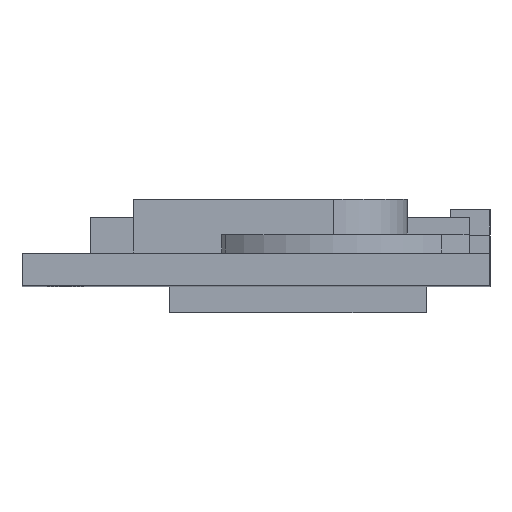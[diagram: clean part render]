
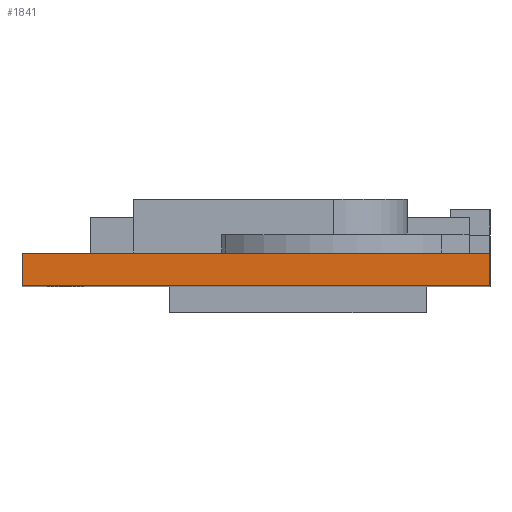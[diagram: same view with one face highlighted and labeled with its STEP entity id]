
A CAD part, top view. The second image highlights one B-rep face of the part: STEP entity #1841.
In plain terms, the highlighted planar face has unit normal (0, 0, 1).
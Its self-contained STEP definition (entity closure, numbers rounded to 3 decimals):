
#3 = VECTOR ( 'NONE', #960, 1000. ) ;
#25 = LINE ( 'NONE', #1045, #3 ) ;
#74 = CARTESIAN_POINT ( 'NONE',  ( -14.2, -33.3, 42.9 ) ) ;
#252 = DIRECTION ( 'NONE',  ( 0., 1., 0. ) ) ;
#256 = CARTESIAN_POINT ( 'NONE',  ( -14.2, -37., 42.9 ) ) ;
#345 = DIRECTION ( 'NONE',  ( 1., 0., 0. ) ) ;
#350 = DIRECTION ( 'NONE',  ( 0., 0., -1. ) ) ;
#356 = CARTESIAN_POINT ( 'NONE',  ( -68., -37., 42.9 ) ) ;
#419 = PLANE ( 'NONE',  #1107 ) ;
#509 = LINE ( 'NONE', #1023, #574 ) ;
#574 = VECTOR ( 'NONE', #1534, 1000. ) ;
#605 = LINE ( 'NONE', #256, #640 ) ;
#640 = VECTOR ( 'NONE', #252, 1000. ) ;
#762 = EDGE_CURVE ( 'NONE', #1684, #2202, #509, .T. ) ;
#839 = ORIENTED_EDGE ( 'NONE', *, *, #762, .F. ) ;
#850 = DIRECTION ( 'NONE',  ( 1., 0., 0. ) ) ;
#916 = EDGE_CURVE ( 'NONE', #1594, #1684, #25, .T. ) ;
#932 = CARTESIAN_POINT ( 'NONE',  ( -68., -37., 42.9 ) ) ;
#941 = ORIENTED_EDGE ( 'NONE', *, *, #1162, .F. ) ;
#957 = CARTESIAN_POINT ( 'NONE',  ( -68., -33.3, 42.9 ) ) ;
#960 = DIRECTION ( 'NONE',  ( -1., 0., 0. ) ) ;
#987 = FACE_OUTER_BOUND ( 'NONE', #2118, .T. ) ;
#1023 = CARTESIAN_POINT ( 'NONE',  ( -68., -37., 42.9 ) ) ;
#1045 = CARTESIAN_POINT ( 'NONE',  ( -68., -37., 42.9 ) ) ;
#1068 = VECTOR ( 'NONE', #850, 1000. ) ;
#1079 = ORIENTED_EDGE ( 'NONE', *, *, #916, .F. ) ;
#1090 = LINE ( 'NONE', #957, #1068 ) ;
#1107 = AXIS2_PLACEMENT_3D ( 'NONE', #356, #350, #345 ) ;
#1162 = EDGE_CURVE ( 'NONE', #2202, #1926, #1090, .T. ) ;
#1305 = CARTESIAN_POINT ( 'NONE',  ( -14.2, -37., 42.9 ) ) ;
#1479 = ORIENTED_EDGE ( 'NONE', *, *, #1876, .T. ) ;
#1534 = DIRECTION ( 'NONE',  ( 0., 1., 0. ) ) ;
#1594 = VERTEX_POINT ( 'NONE', #1305 ) ;
#1684 = VERTEX_POINT ( 'NONE', #932 ) ;
#1841 = ADVANCED_FACE ( 'NONE', ( #987 ), #419, .F. ) ;
#1876 = EDGE_CURVE ( 'NONE', #1594, #1926, #605, .T. ) ;
#1926 = VERTEX_POINT ( 'NONE', #74 ) ;
#1969 = CARTESIAN_POINT ( 'NONE',  ( -68., -33.3, 42.9 ) ) ;
#2118 = EDGE_LOOP ( 'NONE', ( #941, #839, #1079, #1479 ) ) ;
#2202 = VERTEX_POINT ( 'NONE', #1969 ) ;
